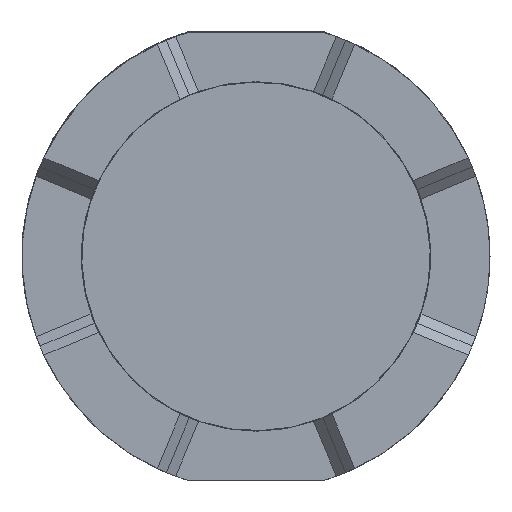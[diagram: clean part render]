
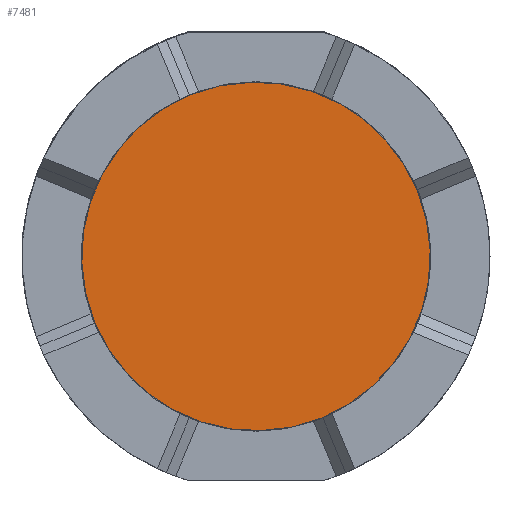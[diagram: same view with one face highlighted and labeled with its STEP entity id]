
A CAD part, front view. The second image highlights one B-rep face of the part: STEP entity #7481.
In plain terms, the highlighted planar face has unit normal (0, -1, 0).
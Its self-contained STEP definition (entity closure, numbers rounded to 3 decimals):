
#1670 = DIRECTION ( 'NONE',  ( -0.882, 0., 0.47 ) ) ;
#2746 = CIRCLE ( 'NONE', #14058, 17.5 ) ;
#4294 = CARTESIAN_POINT ( 'NONE',  ( 0., -70.25, 0. ) ) ;
#4796 = CIRCLE ( 'NONE', #6070, 17.5 ) ;
#5468 = VERTEX_POINT ( 'NONE', #11437 ) ;
#5642 = DIRECTION ( 'NONE',  ( 0., -1., 0. ) ) ;
#6070 = AXIS2_PLACEMENT_3D ( 'NONE', #4294, #5642, #7072 ) ;
#6081 = AXIS2_PLACEMENT_3D ( 'NONE', #17166, #8566, #1670 ) ;
#7072 = DIRECTION ( 'NONE',  ( 0.882, 0., -0.47 ) ) ;
#7481 = ADVANCED_FACE ( 'NONE', ( #16496 ), #15759, .F. ) ;
#7800 = EDGE_CURVE ( 'NONE', #17902, #5468, #2746, .T. ) ;
#8418 = ORIENTED_EDGE ( 'NONE', *, *, #7800, .T. ) ;
#8566 = DIRECTION ( 'NONE',  ( 0., 1., 0. ) ) ;
#8734 = EDGE_CURVE ( 'NONE', #5468, #17902, #4796, .T. ) ;
#11437 = CARTESIAN_POINT ( 'NONE',  ( -15.443, -70.25, 8.233 ) ) ;
#12496 = CARTESIAN_POINT ( 'NONE',  ( 15.443, -70.25, -8.233 ) ) ;
#13629 = DIRECTION ( 'NONE',  ( 0., -1., 0. ) ) ;
#14058 = AXIS2_PLACEMENT_3D ( 'NONE', #17841, #13629, #15031 ) ;
#14741 = ORIENTED_EDGE ( 'NONE', *, *, #8734, .T. ) ;
#15031 = DIRECTION ( 'NONE',  ( 0.882, 0., -0.47 ) ) ;
#15738 = EDGE_LOOP ( 'NONE', ( #8418, #14741 ) ) ;
#15759 = PLANE ( 'NONE',  #6081 ) ;
#16496 = FACE_OUTER_BOUND ( 'NONE', #15738, .T. ) ;
#17166 = CARTESIAN_POINT ( 'NONE',  ( 8.233, -70.25, 15.443 ) ) ;
#17841 = CARTESIAN_POINT ( 'NONE',  ( 0., -70.25, 0. ) ) ;
#17902 = VERTEX_POINT ( 'NONE', #12496 ) ;
